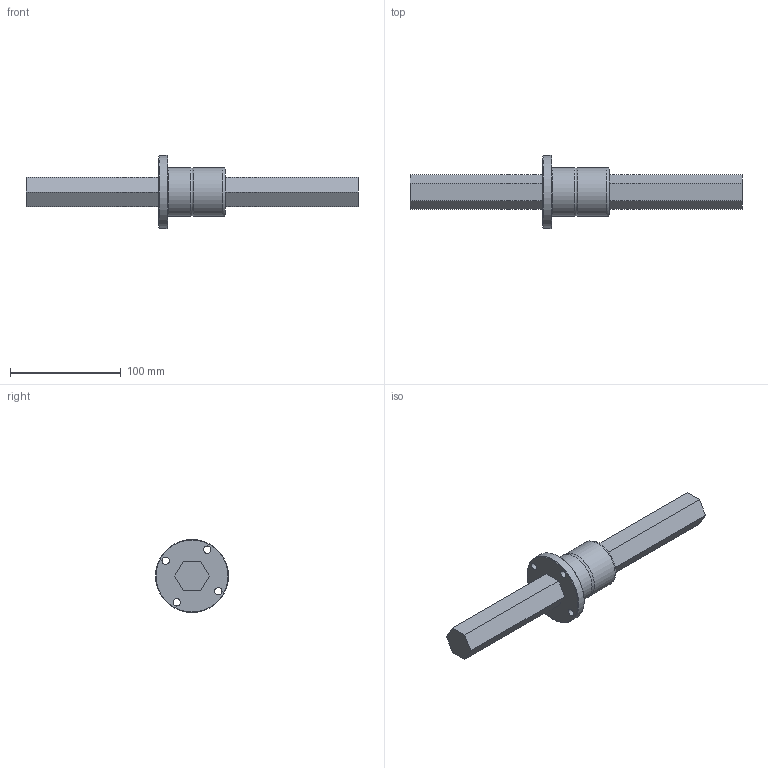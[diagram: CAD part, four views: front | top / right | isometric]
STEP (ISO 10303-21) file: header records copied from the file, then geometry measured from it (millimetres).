
FILE_DESCRIPTION((''),'2;1');
FILE_NAME('D:\製品 (図面)\カタログ用3D\ネジ関連\STEP形式\HTF\HTF27.stp','2010-06-01T16:48:39',('Tsuchiya'),(''),'Autodesk Inventor 10','Autodesk Inventor 10','');
FILE_SCHEMA(('AUTOMOTIVE_DESIGN { 1 0 10303 214 1 1 1 1 }'));
Length unit declared in the file: millimetre
Products named in the file (3): HTF27; HTF271; HTF272
Assembly tree (2 placements, depth 2):
  HTF27
    HTF271
    HTF272
Bounding box: 300 x 66 x 66 mm (x, y, z)
Volume: 255994.9 mm3; surface area: 49918.3 mm2
Topology: 2 solids, 2 shells, 39 faces, 96 edges, 64 vertices
Faces by surface type: plane 25, cylinder 9, cone 2, bspline 2, torus 1
Full cylindrical faces by diameter (mm): 2 x1, 6.6 x4, 32.2 x1, 44 x2, 66 x1
Entity records: 1335 total; most frequent: CARTESIAN_POINT 399, DIRECTION 178, ORIENTED_EDGE 152, EDGE_CURVE 76, EDGE_LOOP 68, AXIS2_PLACEMENT_3D 62, VERTEX_POINT 58, VECTOR 54
